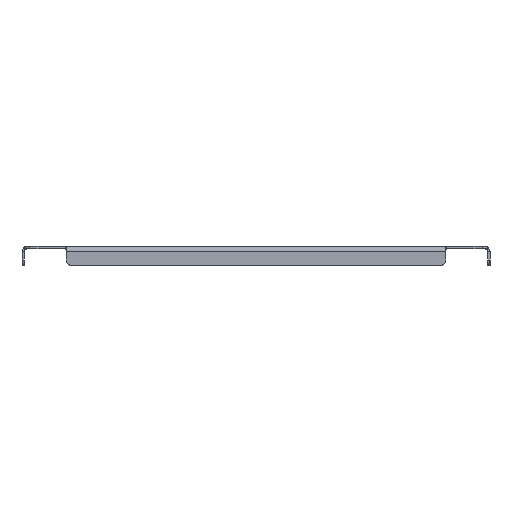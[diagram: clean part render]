
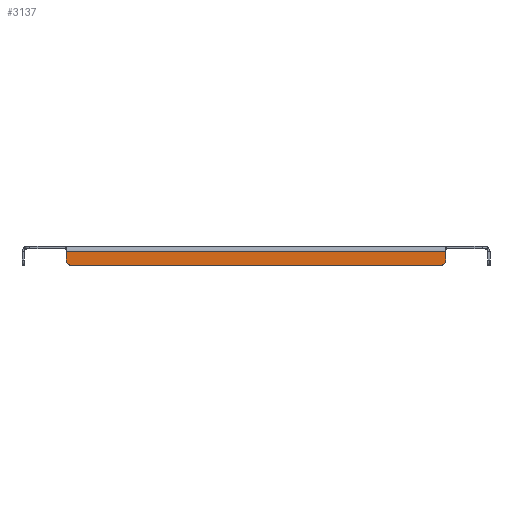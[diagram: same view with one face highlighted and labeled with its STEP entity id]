
A CAD part, front view. The second image highlights one B-rep face of the part: STEP entity #3137.
In plain terms, the highlighted planar face has unit normal (0, -1, 0).
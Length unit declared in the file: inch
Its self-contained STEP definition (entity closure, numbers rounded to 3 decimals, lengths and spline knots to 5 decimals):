
#868=DIRECTION('',(-1.,0.,0.));
#869=VECTOR('',#868,16.9835);
#870=CARTESIAN_POINT('',(8.49175,-16.47075,-0.2465));
#871=LINE('',#870,#869);
#937=CARTESIAN_POINT('',(-8.24175,-16.47075,-0.608));
#938=DIRECTION('',(0.,-1.,0.));
#939=DIRECTION('',(-1.,0.,0.));
#940=AXIS2_PLACEMENT_3D('',#937,#938,#939);
#942=DIRECTION('',(0.,0.,-1.));
#943=VECTOR('',#942,0.3615);
#944=CARTESIAN_POINT('',(-8.49175,-16.47075,-0.2465));
#945=LINE('',#944,#943);
#946=DIRECTION('',(0.,0.,1.));
#947=VECTOR('',#946,0.3615);
#948=CARTESIAN_POINT('',(8.49175,-16.47075,-0.608));
#949=LINE('',#948,#947);
#950=CARTESIAN_POINT('',(8.24175,-16.47075,-0.608));
#951=DIRECTION('',(0.,-1.,0.));
#952=DIRECTION('',(0.,0.,-1.));
#953=AXIS2_PLACEMENT_3D('',#950,#951,#952);
#955=DIRECTION('',(1.,0.,0.));
#956=VECTOR('',#955,16.4835);
#957=CARTESIAN_POINT('',(-8.24175,-16.47075,-0.858));
#958=LINE('',#957,#956);
#1185=CARTESIAN_POINT('',(8.49175,-16.47075,-0.2465));
#1186=CARTESIAN_POINT('',(-8.49175,-16.47075,-0.2465));
#1187=VERTEX_POINT('',#1185);
#1188=VERTEX_POINT('',#1186);
#1489=CARTESIAN_POINT('',(-8.49175,-16.47075,-0.608));
#1490=CARTESIAN_POINT('',(-8.24175,-16.47075,-0.858));
#1491=VERTEX_POINT('',#1489);
#1492=VERTEX_POINT('',#1490);
#1497=CARTESIAN_POINT('',(8.24175,-16.47075,-0.858));
#1498=CARTESIAN_POINT('',(8.49175,-16.47075,-0.608));
#1499=VERTEX_POINT('',#1497);
#1500=VERTEX_POINT('',#1498);
#3121=CARTESIAN_POINT('',(-10.36675,-16.47075,0.));
#3122=DIRECTION('',(0.,-1.,0.));
#3123=DIRECTION('',(-1.,0.,0.));
#3124=AXIS2_PLACEMENT_3D('',#3121,#3122,#3123);
#3125=PLANE('',#3124);
#3126=ORIENTED_EDGE('',*,*,#3111,.F.);
#3127=ORIENTED_EDGE('',*,*,#3101,.F.);
#3128=ORIENTED_EDGE('',*,*,#2923,.F.);
#3130=ORIENTED_EDGE('',*,*,#3129,.F.);
#3132=ORIENTED_EDGE('',*,*,#3131,.F.);
#3134=ORIENTED_EDGE('',*,*,#3133,.F.);
#3135=EDGE_LOOP('',(#3126,#3127,#3128,#3130,#3132,#3134));
#3136=FACE_OUTER_BOUND('',#3135,.F.);
#3137=ADVANCED_FACE('',(#3136),#3125,.T.);
#941=CIRCLE('',#940,0.25);
#954=CIRCLE('',#953,0.25);
#2923=EDGE_CURVE('',#1187,#1188,#871,.T.);
#3101=EDGE_CURVE('',#1188,#1491,#945,.T.);
#3111=EDGE_CURVE('',#1491,#1492,#941,.T.);
#3129=EDGE_CURVE('',#1500,#1187,#949,.T.);
#3131=EDGE_CURVE('',#1499,#1500,#954,.T.);
#3133=EDGE_CURVE('',#1492,#1499,#958,.T.);
